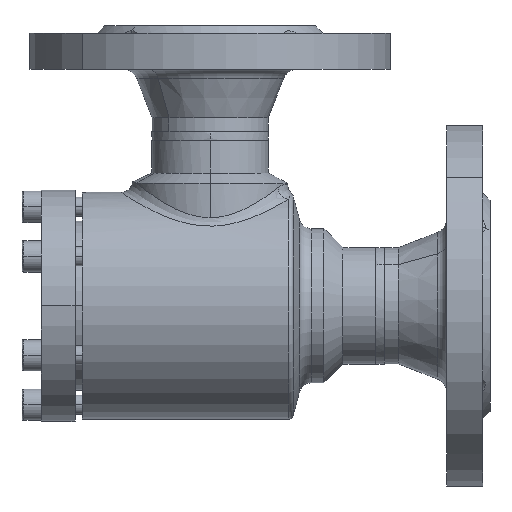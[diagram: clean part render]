
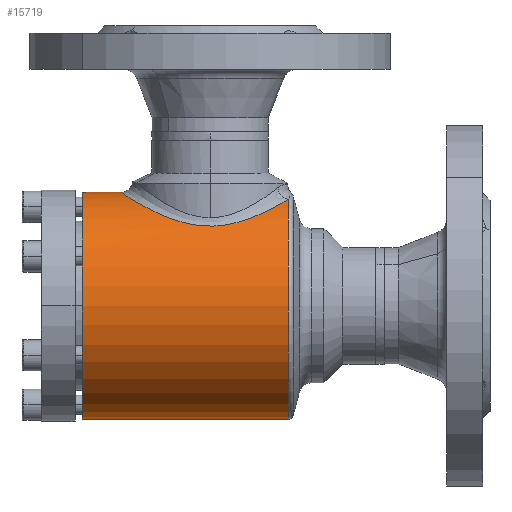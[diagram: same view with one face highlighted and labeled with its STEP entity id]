
A CAD part, left-side view. The second image highlights one B-rep face of the part: STEP entity #15719.
In plain terms, the highlighted cylindrical face has radius 47 mm (diameter 94 mm), a partial arc.
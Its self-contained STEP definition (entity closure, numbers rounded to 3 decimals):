
#630 = ORIENTED_EDGE ( 'NONE', *, *, #10000, .T. ) ;
#1090 = ORIENTED_EDGE ( 'NONE', *, *, #4289, .F. ) ;
#4289 = EDGE_CURVE ( 'NONE', #9613, #11719, #11196, .T. ) ;
#5223 = VERTEX_POINT ( 'NONE', #13220 ) ;
#5364 = EDGE_CURVE ( 'NONE', #5223, #12545, #13293, .T. ) ;
#8636 = EDGE_CURVE ( 'NONE', #11719, #12545, #11152, .T. ) ;
#8982 = ORIENTED_EDGE ( 'NONE', *, *, #8636, .F. ) ;
#9140 = EDGE_CURVE ( 'NONE', #9784, #5223, #12458, .T. ) ;
#9298 = ORIENTED_EDGE ( 'NONE', *, *, #9140, .T. ) ;
#9475 = ORIENTED_EDGE ( 'NONE', *, *, #5364, .T. ) ;
#9539 = CARTESIAN_POINT ( 'NONE',  ( 0., 0., -47. ) ) ;
#9613 = VERTEX_POINT ( 'NONE', #13088 ) ;
#9784 = VERTEX_POINT ( 'NONE', #13276 ) ;
#10000 = EDGE_CURVE ( 'NONE', #9613, #9784, #13438, .T. ) ;
#10898 = FACE_OUTER_BOUND ( 'NONE', #13503, .T. ) ;
#10899 = CYLINDRICAL_SURFACE ( 'NONE', #10900, 47. ) ;
#10900 = AXIS2_PLACEMENT_3D ( 'NONE', #10901, #10903, #10904 ) ;
#10901 = CARTESIAN_POINT ( 'NONE',  ( 0., -91., 0. ) ) ;
#10903 = DIRECTION ( 'NONE',  ( 0., 1., 0. ) ) ;
#10904 = DIRECTION ( 'NONE',  ( 0., 0., 1. ) ) ;
#11152 = CIRCLE ( 'NONE', #11153, 47. ) ;
#11153 = AXIS2_PLACEMENT_3D ( 'NONE', #11154, #11155, #11156 ) ;
#11154 = CARTESIAN_POINT ( 'NONE',  ( 0., 0., 0. ) ) ;
#11155 = DIRECTION ( 'NONE',  ( 0., 1., 0. ) ) ;
#11156 = DIRECTION ( 'NONE',  ( 0., 0., 1. ) ) ;
#11196 = LINE ( 'NONE', #11199, #11200 ) ;
#11199 = CARTESIAN_POINT ( 'NONE',  ( 0., -91., -47. ) ) ;
#11200 = VECTOR ( 'NONE', #11201, 1000. ) ;
#11201 = DIRECTION ( 'NONE',  ( 0., 1., 0. ) ) ;
#11719 = VERTEX_POINT ( 'NONE', #9539 ) ;
#12458 = B_SPLINE_CURVE_WITH_KNOTS ( 'NONE', 3,
 ( #12459, #12461, #12462, #12463, #12464, #12465, #12466, #12467, #12468, #12469, #12470, #12471, #12472, #12473, #12474, #12475, #12476, #12478, #12479, #12480, #12481, #12482, #12483, #12484, #12485, #12486, #12487, #12488, #12489, #12490, #12491, #12492, #12493, #12494, #12495, #12496, #12497, #12498, #12499, #12500, #12501, #12502, #12503, #12504, #12505, #12506, #12507, #12508, #12509, #12510, #12511, #12512, #12513, #12514, #12515, #12516, #12517, #12518, #12519, #12520, #12521, #12522 ),
 .UNSPECIFIED., .F., .F.,
 ( 4, 2, 2, 2, 2, 2, 2, 2, 2, 2, 2, 2, 2, 2, 2, 2, 2, 2, 2, 2, 2, 2, 2, 2, 2, 2, 2, 2, 2, 2, 4 ),
 ( 0.017, 0.023, 0.026, 0.029, 0.035, 0.039, 0.04, 0.042, 0.048, 0.051, 0.052, 0.054, 0.06, 0.063, 0.066, 0.069, 0.072, 0.078, 0.081, 0.083, 0.084, 0.09, 0.093, 0.095, 0.096, 0.103, 0.106, 0.107, 0.109, 0.112, 0.115 ),
 .UNSPECIFIED. ) ;
#12459 = CARTESIAN_POINT ( 'NONE',  ( -16.073, -85.446, 44.166 ) ) ;
#12461 = CARTESIAN_POINT ( 'NONE',  ( -17.749, -84.43, 43.556 ) ) ;
#12462 = CARTESIAN_POINT ( 'NONE',  ( -19.293, -83.29, 42.887 ) ) ;
#12463 = CARTESIAN_POINT ( 'NONE',  ( -21.444, -81.41, 41.831 ) ) ;
#12464 = CARTESIAN_POINT ( 'NONE',  ( -22.133, -80.755, 41.469 ) ) ;
#12465 = CARTESIAN_POINT ( 'NONE',  ( -23.459, -79.389, 40.734 ) ) ;
#12466 = CARTESIAN_POINT ( 'NONE',  ( -24.096, -78.676, 40.359 ) ) ;
#12467 = CARTESIAN_POINT ( 'NONE',  ( -25.907, -76.48, 39.24 ) ) ;
#12468 = CARTESIAN_POINT ( 'NONE',  ( -26.989, -74.936, 38.497 ) ) ;
#12469 = CARTESIAN_POINT ( 'NONE',  ( -28.44, -72.491, 37.424 ) ) ;
#12470 = CARTESIAN_POINT ( 'NONE',  ( -28.894, -71.655, 37.073 ) ) ;
#12471 = CARTESIAN_POINT ( 'NONE',  ( -29.533, -70.366, 36.563 ) ) ;
#12472 = CARTESIAN_POINT ( 'NONE',  ( -29.739, -69.93, 36.396 ) ) ;
#12473 = CARTESIAN_POINT ( 'NONE',  ( -30.137, -69.047, 36.067 ) ) ;
#12474 = CARTESIAN_POINT ( 'NONE',  ( -30.328, -68.599, 35.906 ) ) ;
#12475 = CARTESIAN_POINT ( 'NONE',  ( -31.243, -66.344, 35.126 ) ) ;
#12476 = CARTESIAN_POINT ( 'NONE',  ( -31.842, -64.482, 34.576 ) ) ;
#12478 = CARTESIAN_POINT ( 'NONE',  ( -32.541, -61.591, 33.914 ) ) ;
#12479 = CARTESIAN_POINT ( 'NONE',  ( -32.74, -60.61, 33.721 ) ) ;
#12480 = CARTESIAN_POINT ( 'NONE',  ( -32.986, -59.111, 33.48 ) ) ;
#12481 = CARTESIAN_POINT ( 'NONE',  ( -33.059, -58.608, 33.408 ) ) ;
#12482 = CARTESIAN_POINT ( 'NONE',  ( -33.186, -57.603, 33.282 ) ) ;
#12483 = CARTESIAN_POINT ( 'NONE',  ( -33.239, -57.1, 33.229 ) ) ;
#12484 = CARTESIAN_POINT ( 'NONE',  ( -33.462, -54.583, 33.006 ) ) ;
#12485 = CARTESIAN_POINT ( 'NONE',  ( -33.49, -52.562, 32.976 ) ) ;
#12486 = CARTESIAN_POINT ( 'NONE',  ( -33.307, -49.52, 33.161 ) ) ;
#12487 = CARTESIAN_POINT ( 'NONE',  ( -33.207, -48.498, 33.262 ) ) ;
#12488 = CARTESIAN_POINT ( 'NONE',  ( -32.933, -46.49, 33.532 ) ) ;
#12489 = CARTESIAN_POINT ( 'NONE',  ( -32.761, -45.501, 33.702 ) ) ;
#12490 = CARTESIAN_POINT ( 'NONE',  ( -32.346, -43.55, 34.1 ) ) ;
#12491 = CARTESIAN_POINT ( 'NONE',  ( -32.103, -42.587, 34.33 ) ) ;
#12492 = CARTESIAN_POINT ( 'NONE',  ( -31.549, -40.688, 34.839 ) ) ;
#12493 = CARTESIAN_POINT ( 'NONE',  ( -31.237, -39.749, 35.121 ) ) ;
#12494 = CARTESIAN_POINT ( 'NONE',  ( -30.211, -37.009, 36.016 ) ) ;
#12495 = CARTESIAN_POINT ( 'NONE',  ( -29.406, -35.272, 36.683 ) ) ;
#12496 = CARTESIAN_POINT ( 'NONE',  ( -28.021, -32.781, 37.738 ) ) ;
#12497 = CARTESIAN_POINT ( 'NONE',  ( -27.529, -31.97, 38.099 ) ) ;
#12498 = CARTESIAN_POINT ( 'NONE',  ( -26.744, -30.781, 38.65 ) ) ;
#12499 = CARTESIAN_POINT ( 'NONE',  ( -26.475, -30.389, 38.835 ) ) ;
#12500 = CARTESIAN_POINT ( 'NONE',  ( -25.92, -29.615, 39.208 ) ) ;
#12501 = CARTESIAN_POINT ( 'NONE',  ( -25.634, -29.233, 39.396 ) ) ;
#12502 = CARTESIAN_POINT ( 'NONE',  ( -24.175, -27.357, 40.33 ) ) ;
#12503 = CARTESIAN_POINT ( 'NONE',  ( -22.902, -25.964, 41.072 ) ) ;
#12504 = CARTESIAN_POINT ( 'NONE',  ( -20.822, -24.029, 42.143 ) ) ;
#12505 = CARTESIAN_POINT ( 'NONE',  ( -20.099, -23.411, 42.494 ) ) ;
#12506 = CARTESIAN_POINT ( 'NONE',  ( -18.969, -22.523, 43.004 ) ) ;
#12507 = CARTESIAN_POINT ( 'NONE',  ( -18.584, -22.235, 43.172 ) ) ;
#12508 = CARTESIAN_POINT ( 'NONE',  ( -17.798, -21.671, 43.502 ) ) ;
#12509 = CARTESIAN_POINT ( 'NONE',  ( -17.396, -21.396, 43.664 ) ) ;
#12510 = CARTESIAN_POINT ( 'NONE',  ( -15.356, -20.064, 44.455 ) ) ;
#12511 = CARTESIAN_POINT ( 'NONE',  ( -13.635, -19.147, 45.018 ) ) ;
#12512 = CARTESIAN_POINT ( 'NONE',  ( -10.906, -18.006, 45.727 ) ) ;
#12513 = CARTESIAN_POINT ( 'NONE',  ( -9.972, -17.666, 45.94 ) ) ;
#12514 = CARTESIAN_POINT ( 'NONE',  ( -8.53, -17.219, 46.222 ) ) ;
#12515 = CARTESIAN_POINT ( 'NONE',  ( -8.041, -17.081, 46.31 ) ) ;
#12516 = CARTESIAN_POINT ( 'NONE',  ( -7.058, -16.829, 46.47 ) ) ;
#12517 = CARTESIAN_POINT ( 'NONE',  ( -6.563, -16.715, 46.542 ) ) ;
#12518 = CARTESIAN_POINT ( 'NONE',  ( -5.066, -16.41, 46.737 ) ) ;
#12519 = CARTESIAN_POINT ( 'NONE',  ( -4.049, -16.255, 46.836 ) ) ;
#12520 = CARTESIAN_POINT ( 'NONE',  ( -2.024, -16.051, 46.967 ) ) ;
#12521 = CARTESIAN_POINT ( 'NONE',  ( -1.011, -16., 47. ) ) ;
#12522 = CARTESIAN_POINT ( 'NONE',  ( 0., -16., 47. ) ) ;
#12545 = VERTEX_POINT ( 'NONE', #12732 ) ;
#12732 = CARTESIAN_POINT ( 'NONE',  ( 0., 0., 47. ) ) ;
#13088 = CARTESIAN_POINT ( 'NONE',  ( 0., -85.446, -47. ) ) ;
#13220 = CARTESIAN_POINT ( 'NONE',  ( 0., -16., 47. ) ) ;
#13276 = CARTESIAN_POINT ( 'NONE',  ( -16.073, -85.446, 44.166 ) ) ;
#13293 = LINE ( 'NONE', #13294, #13295 ) ;
#13294 = CARTESIAN_POINT ( 'NONE',  ( 0., -91., 47. ) ) ;
#13295 = VECTOR ( 'NONE', #13296, 1000. ) ;
#13296 = DIRECTION ( 'NONE',  ( 0., 1., 0. ) ) ;
#13438 = CIRCLE ( 'NONE', #13439, 47. ) ;
#13439 = AXIS2_PLACEMENT_3D ( 'NONE', #13440, #13441, #13442 ) ;
#13440 = CARTESIAN_POINT ( 'NONE',  ( 0., -85.446, 0. ) ) ;
#13441 = DIRECTION ( 'NONE',  ( 0., 1., 0. ) ) ;
#13442 = DIRECTION ( 'NONE',  ( 0., 0., -1. ) ) ;
#13503 = EDGE_LOOP ( 'NONE', ( #1090, #630, #9298, #9475, #8982 ) ) ;
#15719 = ADVANCED_FACE ( 'NONE', ( #10898 ), #10899, .T. ) ;
